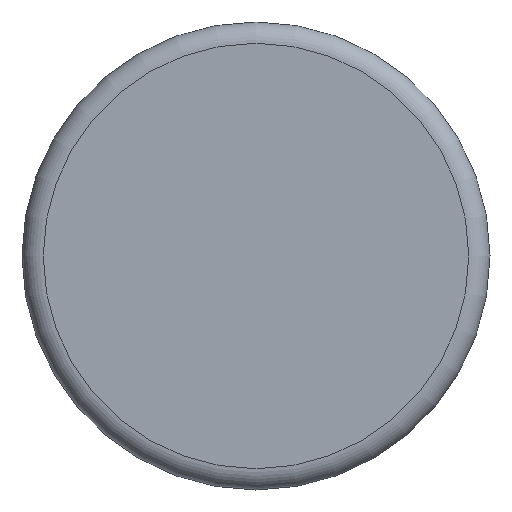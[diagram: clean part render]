
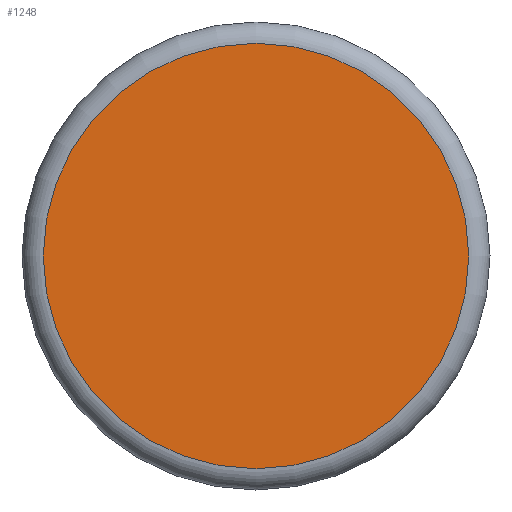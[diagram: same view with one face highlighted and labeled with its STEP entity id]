
A CAD part, front view. The second image highlights one B-rep face of the part: STEP entity #1248.
In plain terms, the highlighted planar face has unit normal (0, -1, 0).
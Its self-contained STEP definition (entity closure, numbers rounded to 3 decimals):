
#59=CIRCLE('',#1326,20.);
#60=CIRCLE('',#1327,20.);
#174=FACE_OUTER_BOUND('',#252,.T.);
#252=EDGE_LOOP('',(#1129,#1130));
#623=VERTEX_POINT('',#2687);
#624=VERTEX_POINT('',#2688);
#793=EDGE_CURVE('',#623,#624,#59,.T.);
#794=EDGE_CURVE('',#624,#623,#60,.T.);
#1129=ORIENTED_EDGE('',*,*,#793,.F.);
#1130=ORIENTED_EDGE('',*,*,#794,.F.);
#1181=PLANE('',#1325);
#1248=ADVANCED_FACE('',(#174),#1181,.F.);
#1325=AXIS2_PLACEMENT_3D('',#2686,#1581,#1582);
#1326=AXIS2_PLACEMENT_3D('',#2689,#1583,#1584);
#1327=AXIS2_PLACEMENT_3D('',#2690,#1585,#1586);
#1581=DIRECTION('center_axis',(0.,1.,0.));
#1582=DIRECTION('ref_axis',(0.,0.,1.));
#1583=DIRECTION('center_axis',(0.,1.,0.));
#1584=DIRECTION('ref_axis',(1.,0.,0.));
#1585=DIRECTION('center_axis',(0.,1.,0.));
#1586=DIRECTION('ref_axis',(1.,0.,0.));
#2686=CARTESIAN_POINT('Origin',(0.,0.,0.));
#2687=CARTESIAN_POINT('',(-20.,0.,0.));
#2688=CARTESIAN_POINT('',(0.,0.,-20.));
#2689=CARTESIAN_POINT('Origin',(0.,0.,0.));
#2690=CARTESIAN_POINT('Origin',(0.,0.,0.));
